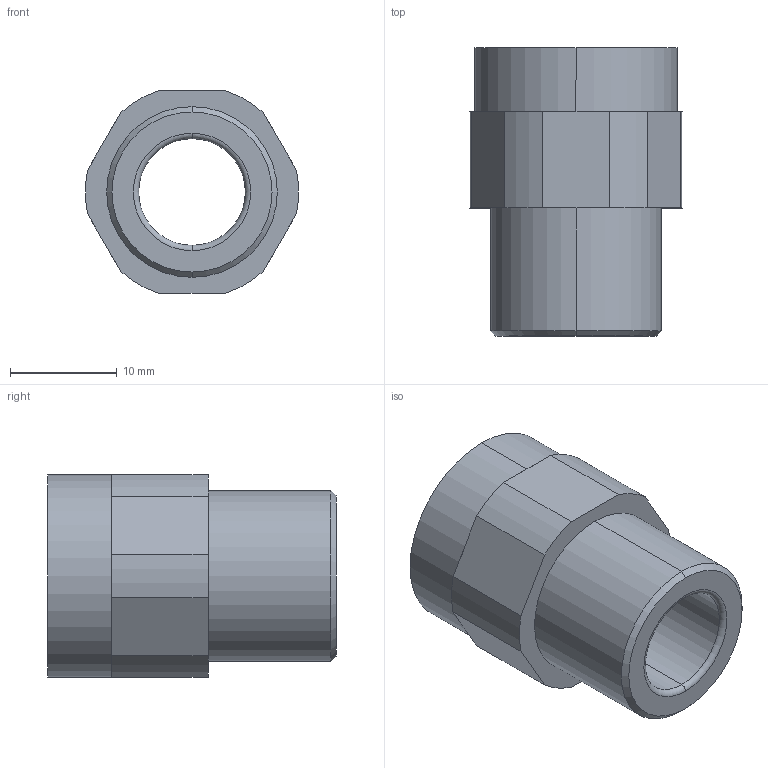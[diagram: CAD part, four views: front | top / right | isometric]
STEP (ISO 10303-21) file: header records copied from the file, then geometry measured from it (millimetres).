
FILE_DESCRIPTION (( 'STEP AP203' ), '1' );
FILE_NAME ('WYTC-10-M16.STEP', '2020-03-12T01:12:27', ( 'c' ), ( 'Microsoft' ), 'SwSTEP 2.0', 'SolidWorks 2016', '' );
FILE_SCHEMA (( 'CONFIG_CONTROL_DESIGN' ));
Length unit declared in the file: millimetre
Products named in the file (1): WYTC-10-M16
Bounding box: 19.95 x 27 x 19 mm (x, y, z)
Volume: 3795.5 mm3; surface area: 3128 mm2
Topology: 1 solids, 1 shells, 50 faces, 110 edges, 68 vertices
Faces by surface type: cylinder 22, plane 20, torus 6, cone 2
Entity records: 1469 total; most frequent: DIRECTION 274, CARTESIAN_POINT 229, ORIENTED_EDGE 220, AXIS2_PLACEMENT_3D 113, EDGE_CURVE 110, VERTEX_POINT 68, CIRCLE 62, EDGE_LOOP 58
